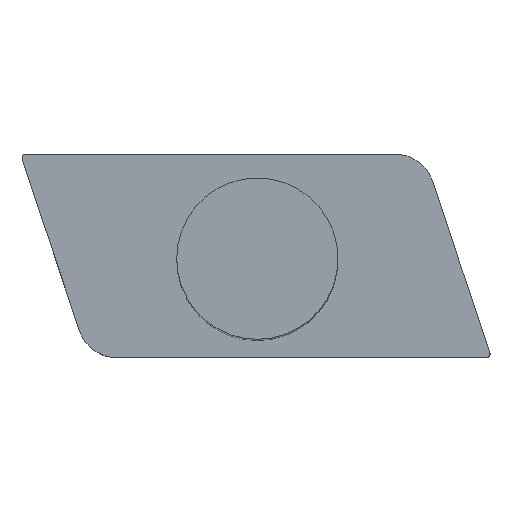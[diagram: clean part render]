
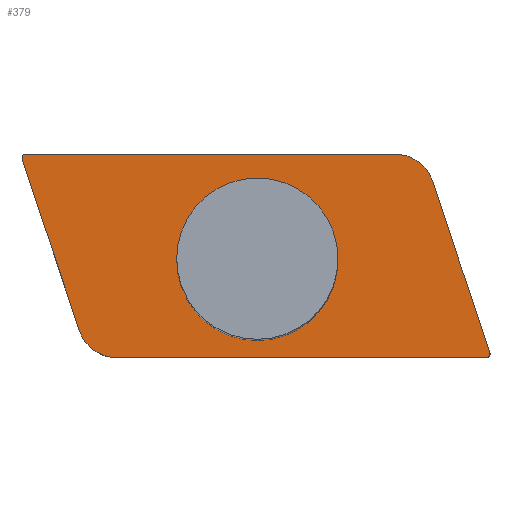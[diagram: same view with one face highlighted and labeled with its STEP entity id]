
A CAD part, top view. The second image highlights one B-rep face of the part: STEP entity #379.
In plain terms, the highlighted planar face has unit normal (0, 0, 1).
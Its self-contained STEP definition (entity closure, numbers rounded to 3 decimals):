
#84=CARTESIAN_POINT('',(5.425,4.005,5.0));
#85=VERTEX_POINT('',#84);
#86=CARTESIAN_POINT('',(1.425,4.005,5.0));
#87=DIRECTION('',(0.0,0.0,-1.0));
#88=DIRECTION('',(-1.0,0.0,0.0));
#89=AXIS2_PLACEMENT_3D('',#86,#87,#88);
#90=CIRCLE('',#89,4.0);
#91=EDGE_CURVE('',#85,#85,#90,.T.);
#110=CARTESIAN_POINT('',(-7.412,0.517,5.0));
#111=VERTEX_POINT('',#110);
#112=CARTESIAN_POINT('',(-10.237,8.991,5.0));
#113=VERTEX_POINT('',#112);
#114=CARTESIAN_POINT('',(-7.412,0.517,5.0));
#115=DIRECTION('',(-0.316,0.949,0.0));
#116=VECTOR('',#115,8.933);
#117=LINE('',#114,#116);
#118=EDGE_CURVE('',#111,#113,#117,.T.);
#150=CARTESIAN_POINT('',(-10.047,9.255,5.0));
#151=VERTEX_POINT('',#150);
#152=CARTESIAN_POINT('',(-10.047,9.055,5.0));
#153=DIRECTION('',(0.0,0.0,-1.0));
#154=DIRECTION('',(0.0,-1.0,0.0));
#155=AXIS2_PLACEMENT_3D('',#152,#153,#154);
#156=CIRCLE('',#155,0.2);
#157=EDGE_CURVE('',#113,#151,#156,.T.);
#183=CARTESIAN_POINT('',(8.234,9.255,5.0));
#184=VERTEX_POINT('',#183);
#185=CARTESIAN_POINT('',(-10.047,9.255,5.0));
#186=DIRECTION('',(1.0,0.0,0.0));
#187=VECTOR('',#186,18.281);
#188=LINE('',#185,#187);
#189=EDGE_CURVE('',#151,#184,#188,.T.);
#214=CARTESIAN_POINT('',(10.131,7.887,5.0));
#215=VERTEX_POINT('',#214);
#216=CARTESIAN_POINT('',(8.234,7.255,5.0));
#217=DIRECTION('',(0.0,0.0,-1.));
#218=DIRECTION('',(-0.949,-0.316,0.0));
#219=AXIS2_PLACEMENT_3D('',#216,#217,#218);
#220=CIRCLE('',#219,2.);
#221=EDGE_CURVE('',#184,#215,#220,.T.);
#247=CARTESIAN_POINT('',(12.956,-0.587,5.0));
#248=VERTEX_POINT('',#247);
#249=CARTESIAN_POINT('',(10.131,7.887,5.0));
#250=DIRECTION('',(0.316,-0.949,0.0));
#251=VECTOR('',#250,8.933);
#252=LINE('',#249,#251);
#253=EDGE_CURVE('',#215,#248,#252,.T.);
#278=CARTESIAN_POINT('',(12.766,-0.85,5.0));
#279=VERTEX_POINT('',#278);
#280=CARTESIAN_POINT('',(12.766,-0.65,5.0));
#281=DIRECTION('',(0.0,0.0,-1.0));
#282=DIRECTION('',(0.0,1.0,0.0));
#283=AXIS2_PLACEMENT_3D('',#280,#281,#282);
#284=CIRCLE('',#283,0.2);
#285=EDGE_CURVE('',#248,#279,#284,.T.);
#311=CARTESIAN_POINT('',(-5.514,-0.85,5.0));
#312=VERTEX_POINT('',#311);
#313=CARTESIAN_POINT('',(12.766,-0.85,5.0));
#314=DIRECTION('',(-1.0,0.0,0.0));
#315=VECTOR('',#314,18.28);
#316=LINE('',#313,#315);
#317=EDGE_CURVE('',#279,#312,#316,.T.);
#342=CARTESIAN_POINT('',(-5.514,1.15,5.0));
#343=DIRECTION('',(0.0,0.0,-1.0));
#344=DIRECTION('',(0.949,0.316,0.0));
#345=AXIS2_PLACEMENT_3D('',#342,#343,#344);
#346=CIRCLE('',#345,2.);
#347=EDGE_CURVE('',#312,#111,#346,.T.);
#361=CARTESIAN_POINT('',(1.359,4.202,5.0));
#362=DIRECTION('',(0.0,0.0,1.0));
#363=DIRECTION('',(1.0,0.0,0.0));
#364=AXIS2_PLACEMENT_3D('',#361,#362,#363);
#365=PLANE('',#364);
#366=ORIENTED_EDGE('',*,*,#118,.F.);
#367=ORIENTED_EDGE('',*,*,#347,.F.);
#368=ORIENTED_EDGE('',*,*,#317,.F.);
#369=ORIENTED_EDGE('',*,*,#285,.F.);
#370=ORIENTED_EDGE('',*,*,#253,.F.);
#371=ORIENTED_EDGE('',*,*,#221,.F.);
#372=ORIENTED_EDGE('',*,*,#189,.F.);
#373=ORIENTED_EDGE('',*,*,#157,.F.);
#374=EDGE_LOOP('',(#366,#367,#368,#369,#370,#371,#372,#373));
#375=FACE_OUTER_BOUND('',#374,.T.);
#376=ORIENTED_EDGE('',*,*,#91,.T.);
#377=EDGE_LOOP('',(#376));
#378=FACE_BOUND('',#377,.T.);
#379=ADVANCED_FACE('',(#375,#378),#365,.T.);
